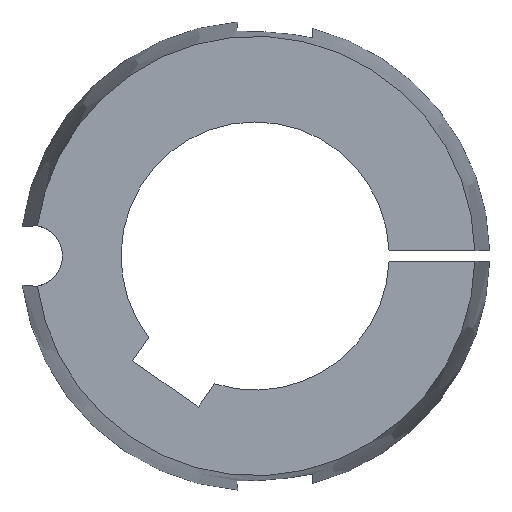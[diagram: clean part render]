
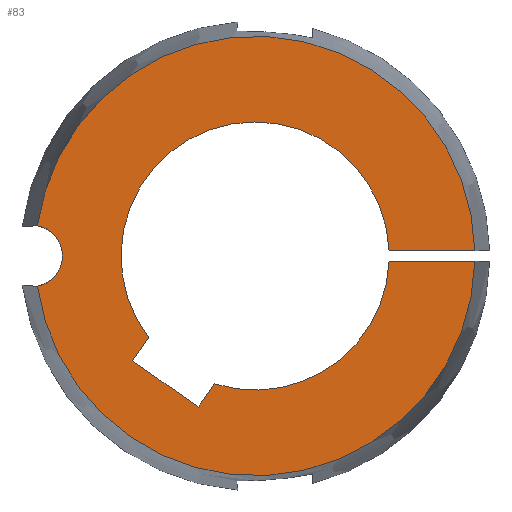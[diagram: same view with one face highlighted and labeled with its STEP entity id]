
A CAD part, left-side view. The second image highlights one B-rep face of the part: STEP entity #83.
In plain terms, the highlighted planar face has unit normal (-1, 0, 0).
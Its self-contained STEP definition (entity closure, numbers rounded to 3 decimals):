
#83 = ADVANCED_FACE( '', ( #108 ), #109, .F. );
#108 = FACE_OUTER_BOUND( '', #140, .T. );
#109 = PLANE( '', #141 );
#140 = EDGE_LOOP( '', ( #220, #221, #222, #223, #224, #225, #226, #227, #228, #229 ) );
#141 = AXIS2_PLACEMENT_3D( '', #230, #231, #232 );
#220 = ORIENTED_EDGE( '', *, *, #293, .T. );
#221 = ORIENTED_EDGE( '', *, *, #319, .F. );
#222 = ORIENTED_EDGE( '', *, *, #320, .T. );
#223 = ORIENTED_EDGE( '', *, *, #305, .T. );
#224 = ORIENTED_EDGE( '', *, *, #303, .T. );
#225 = ORIENTED_EDGE( '', *, *, #300, .T. );
#226 = ORIENTED_EDGE( '', *, *, #310, .T. );
#227 = ORIENTED_EDGE( '', *, *, #321, .T. );
#228 = ORIENTED_EDGE( '', *, *, #294, .T. );
#229 = ORIENTED_EDGE( '', *, *, #322, .F. );
#230 = CARTESIAN_POINT( '', ( -31.8, 0., 0. ) );
#231 = DIRECTION( '', ( 1., 0., 0. ) );
#232 = DIRECTION( '', ( 0., 0., -1. ) );
#293 = EDGE_CURVE( '', #334, #339, #341, .T. );
#294 = EDGE_CURVE( '', #342, #343, #344, .T. );
#300 = EDGE_CURVE( '', #355, #353, #356, .T. );
#303 = EDGE_CURVE( '', #360, #355, #361, .T. );
#305 = EDGE_CURVE( '', #363, #360, #364, .T. );
#310 = EDGE_CURVE( '', #353, #370, #372, .T. );
#319 = EDGE_CURVE( '', #386, #339, #387, .T. );
#320 = EDGE_CURVE( '', #386, #363, #388, .T. );
#321 = EDGE_CURVE( '', #370, #342, #389, .T. );
#322 = EDGE_CURVE( '', #334, #343, #390, .T. );
#334 = VERTEX_POINT( '', #433 );
#339 = VERTEX_POINT( '', #443 );
#341 = CIRCLE( '', #450, 4.6 );
#342 = VERTEX_POINT( '', #451 );
#343 = VERTEX_POINT( '', #452 );
#344 = LINE( '', #453, #454 );
#353 = VERTEX_POINT( '', #472 );
#355 = VERTEX_POINT( '', #475 );
#356 = LINE( '', #476, #477 );
#360 = VERTEX_POINT( '', #483 );
#361 = LINE( '', #484, #485 );
#363 = VERTEX_POINT( '', #488 );
#364 = CIRCLE( '', #489, 20. );
#370 = VERTEX_POINT( '', #497 );
#372 = LINE( '', #500, #501 );
#386 = VERTEX_POINT( '', #516 );
#387 = CIRCLE( '', #517, 32.776 );
#388 = LINE( '', #518, #519 );
#389 = CIRCLE( '', #520, 20. );
#390 = CIRCLE( '', #521, 32.776 );
#433 = CARTESIAN_POINT( '', ( -31.8, 32.464, 4.516 ) );
#443 = CARTESIAN_POINT( '', ( -31.8, 32.464, -4.516 ) );
#450 = AXIS2_PLACEMENT_3D( '', #584, #585, #586 );
#451 = CARTESIAN_POINT( '', ( -31.8, -19.986, 0.75 ) );
#452 = CARTESIAN_POINT( '', ( -31.8, -32.768, 0.75 ) );
#453 = CARTESIAN_POINT( '', ( -31.8, 0., 0.75 ) );
#454 = VECTOR( '', #587, 1000. );
#472 = CARTESIAN_POINT( '', ( -31.8, 18.279, -15.645 ) );
#475 = CARTESIAN_POINT( '', ( -31.8, 8.449, -22.528 ) );
#476 = CARTESIAN_POINT( '', ( -31.8, 8.449, -22.528 ) );
#477 = VECTOR( '', #592, 1000. );
#483 = CARTESIAN_POINT( '', ( -31.8, 6.028, -19.07 ) );
#484 = CARTESIAN_POINT( '', ( -31.8, 6.028, -19.07 ) );
#485 = VECTOR( '', #595, 1000. );
#488 = CARTESIAN_POINT( '', ( -31.8, -19.986, -0.75 ) );
#489 = AXIS2_PLACEMENT_3D( '', #597, #598, #599 );
#497 = CARTESIAN_POINT( '', ( -31.8, 15.858, -12.187 ) );
#500 = CARTESIAN_POINT( '', ( -31.8, 18.279, -15.645 ) );
#501 = VECTOR( '', #606, 1000. );
#516 = CARTESIAN_POINT( '', ( -31.8, -32.768, -0.75 ) );
#517 = AXIS2_PLACEMENT_3D( '', #629, #630, #631 );
#518 = CARTESIAN_POINT( '', ( -31.8, -35., -0.75 ) );
#519 = VECTOR( '', #632, 1000. );
#520 = AXIS2_PLACEMENT_3D( '', #633, #634, #635 );
#521 = AXIS2_PLACEMENT_3D( '', #636, #637, #638 );
#584 = CARTESIAN_POINT( '', ( -31.8, 33.34, 0. ) );
#585 = DIRECTION( '', ( 1., 0., 0. ) );
#586 = DIRECTION( '', ( 0., 1., 0. ) );
#587 = DIRECTION( '', ( 0., -1., 0. ) );
#592 = DIRECTION( '', ( 0., 0.819, 0.574 ) );
#595 = DIRECTION( '', ( 0., 0.574, -0.819 ) );
#597 = CARTESIAN_POINT( '', ( -31.8, 0., 0. ) );
#598 = DIRECTION( '', ( 1., 0., 0. ) );
#599 = DIRECTION( '', ( 0., 0., -1. ) );
#606 = DIRECTION( '', ( 0., -0.574, 0.819 ) );
#629 = CARTESIAN_POINT( '', ( -31.8, 0., 0. ) );
#630 = DIRECTION( '', ( 1., 0., 0. ) );
#631 = DIRECTION( '', ( 0., 0., -1. ) );
#632 = DIRECTION( '', ( 0., 1., 0. ) );
#633 = CARTESIAN_POINT( '', ( -31.8, 0., 0. ) );
#634 = DIRECTION( '', ( 1., 0., 0. ) );
#635 = DIRECTION( '', ( 0., 0., -1. ) );
#636 = CARTESIAN_POINT( '', ( -31.8, 0., 0. ) );
#637 = DIRECTION( '', ( 1., 0., 0. ) );
#638 = DIRECTION( '', ( 0., 0., -1. ) );
